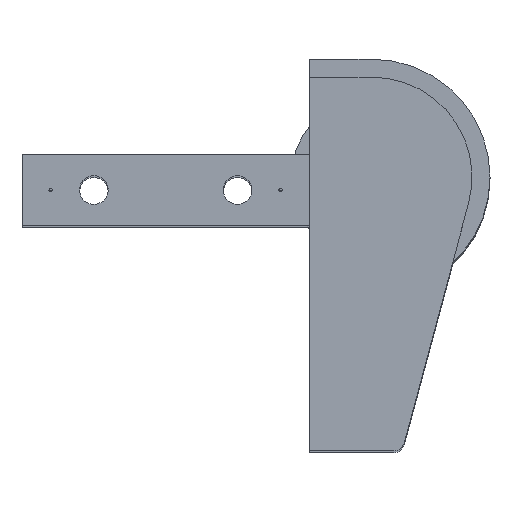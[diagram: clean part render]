
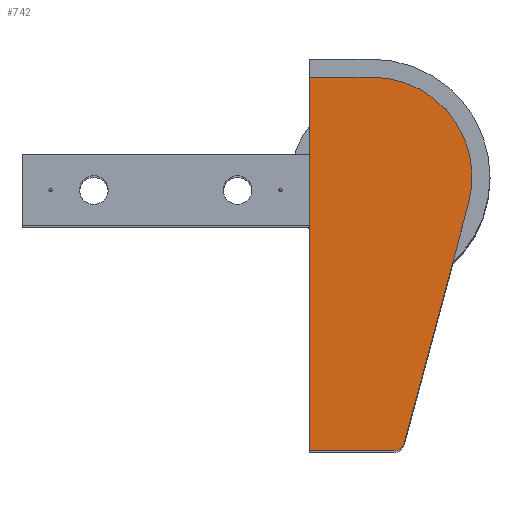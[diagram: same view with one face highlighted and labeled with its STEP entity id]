
A CAD part, top view. The second image highlights one B-rep face of the part: STEP entity #742.
In plain terms, the highlighted planar face has unit normal (0, 0, 1).
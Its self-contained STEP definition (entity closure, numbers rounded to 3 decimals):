
#17 = ORIENTED_EDGE ( 'NONE', *, *, #202, .T. ) ;
#72 = CARTESIAN_POINT ( 'NONE',  ( 3267.2, -5., 158. ) ) ;
#114 = ORIENTED_EDGE ( 'NONE', *, *, #2105, .T. ) ;
#182 = VERTEX_POINT ( 'NONE', #72 ) ;
#202 = EDGE_CURVE ( 'NONE', #182, #1993, #1224, .T. ) ;
#209 = CARTESIAN_POINT ( 'NONE',  ( 3273.261, -106., 158. ) ) ;
#211 = CARTESIAN_POINT ( 'NONE',  ( 3249.7, -5., 158. ) ) ;
#247 = VERTEX_POINT ( 'NONE', #499 ) ;
#253 = EDGE_CURVE ( 'NONE', #1623, #281, #1898, .T. ) ;
#281 = VERTEX_POINT ( 'NONE', #1784 ) ;
#325 = DIRECTION ( 'NONE',  ( 0.259, 0.966, 0. ) ) ;
#343 = LINE ( 'NONE', #612, #587 ) ;
#376 = EDGE_CURVE ( 'NONE', #247, #1874, #619, .T. ) ;
#398 = DIRECTION ( 'NONE',  ( 0., 0., 1. ) ) ;
#417 = CARTESIAN_POINT ( 'NONE',  ( 3273.261, -106., 158. ) ) ;
#454 = DIRECTION ( 'NONE',  ( 0., -1., 0. ) ) ;
#499 = CARTESIAN_POINT ( 'NONE',  ( 3249.7, -109., 158. ) ) ;
#521 = ORIENTED_EDGE ( 'NONE', *, *, #1211, .T. ) ;
#530 = CIRCLE ( 'NONE', #1494, 27.8 ) ;
#581 = DIRECTION ( 'NONE',  ( -1., 0., 0. ) ) ;
#584 = FACE_OUTER_BOUND ( 'NONE', #1458, .T. ) ;
#587 = VECTOR ( 'NONE', #454, 1000. ) ;
#612 = CARTESIAN_POINT ( 'NONE',  ( 3249.7, -46.4, 158. ) ) ;
#619 = LINE ( 'NONE', #909, #2232 ) ;
#622 = CARTESIAN_POINT ( 'NONE',  ( 3267.2, -32.8, 158. ) ) ;
#637 = CARTESIAN_POINT ( 'NONE',  ( 3273.261, -5., 158. ) ) ;
#641 = CARTESIAN_POINT ( 'NONE',  ( 3276.159, -106.776, 158. ) ) ;
#675 = ORIENTED_EDGE ( 'NONE', *, *, #253, .T. ) ;
#742 = ADVANCED_FACE ( 'NONE', ( #584 ), #778, .T. ) ;
#778 = PLANE ( 'NONE',  #1751 ) ;
#836 = CARTESIAN_POINT ( 'NONE',  ( 3276.159, -106.776, 158. ) ) ;
#867 = CARTESIAN_POINT ( 'NONE',  ( 3273.261, -109., 158. ) ) ;
#879 = EDGE_CURVE ( 'NONE', #1874, #1623, #1924, .T. ) ;
#909 = CARTESIAN_POINT ( 'NONE',  ( 3249.7, -109., 158. ) ) ;
#1211 = EDGE_CURVE ( 'NONE', #281, #182, #530, .T. ) ;
#1224 = LINE ( 'NONE', #637, #2070 ) ;
#1236 = DIRECTION ( 'NONE',  ( 1., 0., 0. ) ) ;
#1458 = EDGE_LOOP ( 'NONE', ( #521, #17, #114, #2148, #1865, #675 ) ) ;
#1494 = AXIS2_PLACEMENT_3D ( 'NONE', #622, #2063, #1691 ) ;
#1623 = VERTEX_POINT ( 'NONE', #641 ) ;
#1691 = DIRECTION ( 'NONE',  ( -1., 0., 0. ) ) ;
#1751 = AXIS2_PLACEMENT_3D ( 'NONE', #417, #2033, #1840 ) ;
#1784 = CARTESIAN_POINT ( 'NONE',  ( 3294.053, -39.995, 158. ) ) ;
#1814 = VECTOR ( 'NONE', #325, 1000. ) ;
#1840 = DIRECTION ( 'NONE',  ( 1., 0., 0. ) ) ;
#1865 = ORIENTED_EDGE ( 'NONE', *, *, #879, .T. ) ;
#1874 = VERTEX_POINT ( 'NONE', #867 ) ;
#1898 = LINE ( 'NONE', #836, #1814 ) ;
#1906 = AXIS2_PLACEMENT_3D ( 'NONE', #209, #398, #581 ) ;
#1924 = CIRCLE ( 'NONE', #1906, 3. ) ;
#1993 = VERTEX_POINT ( 'NONE', #211 ) ;
#2033 = DIRECTION ( 'NONE',  ( 0., 0., 1. ) ) ;
#2063 = DIRECTION ( 'NONE',  ( 0., 0., 1. ) ) ;
#2070 = VECTOR ( 'NONE', #2236, 1000. ) ;
#2105 = EDGE_CURVE ( 'NONE', #1993, #247, #343, .T. ) ;
#2148 = ORIENTED_EDGE ( 'NONE', *, *, #376, .T. ) ;
#2232 = VECTOR ( 'NONE', #1236, 1000. ) ;
#2236 = DIRECTION ( 'NONE',  ( -1., 0., 0. ) ) ;
